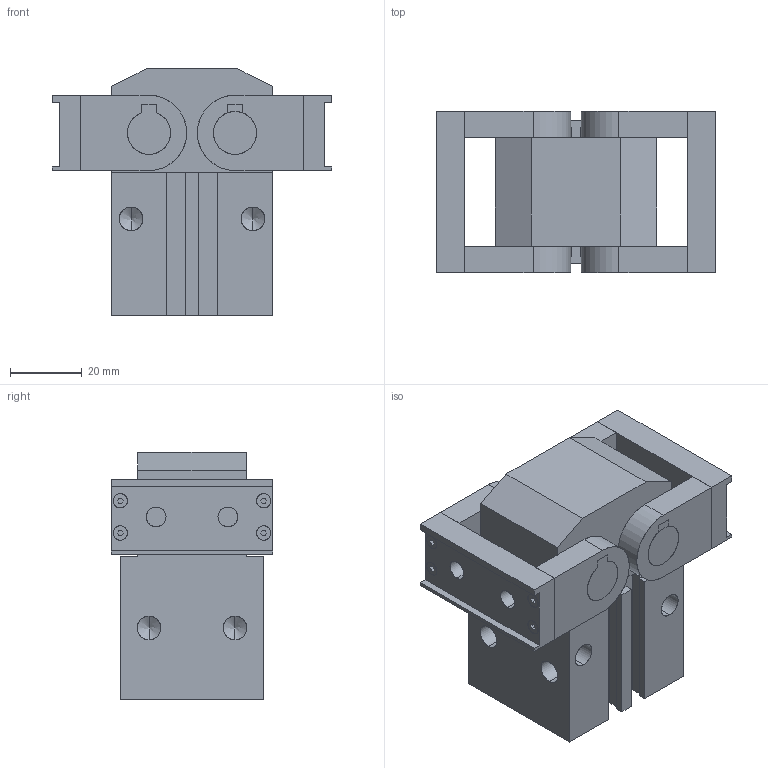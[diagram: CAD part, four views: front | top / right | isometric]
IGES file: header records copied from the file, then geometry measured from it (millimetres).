
Start section: SolidWorks IGES file using analytic representation for surfaces
Global section: file name: C:\Documents and Settings\1EDPI\Mes documents\Kevin 17.01.13\ghk\ghk25\GHK 25 open.IGS; native system: SolidWorks 2010; preprocessor: SolidWorks 2010; author: 1EDPI; date: 130304.104811; units: millimetre
Bounding box: 78 x 45 x 69 mm (x, y, z)
Surface area: 36199 mm2 (no closed solid volume)
Topology: 0 solids, 0 shells, 285 faces, 3354 edges, 3334 vertices
Faces by surface type: bspline 193, revolution 92
